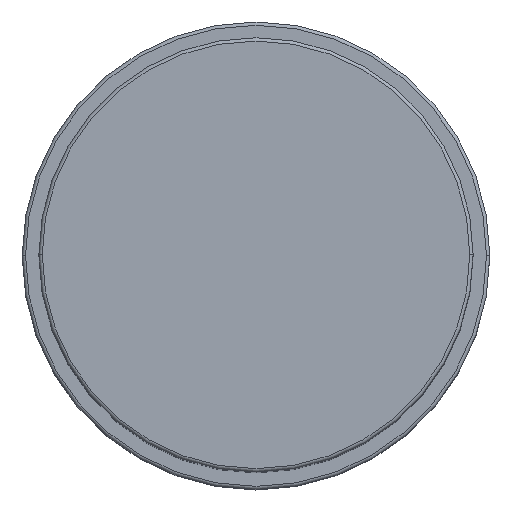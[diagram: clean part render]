
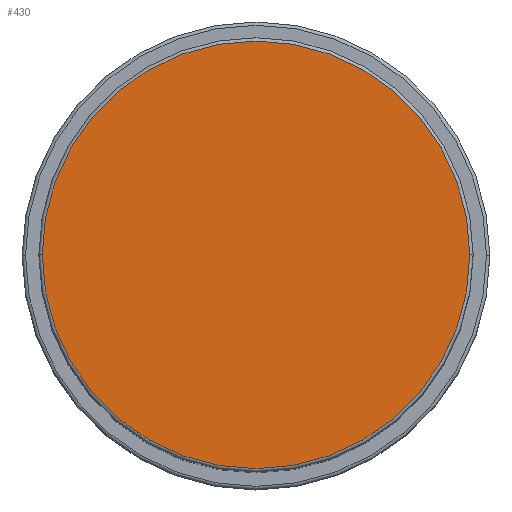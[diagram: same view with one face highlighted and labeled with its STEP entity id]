
A CAD part, top view. The second image highlights one B-rep face of the part: STEP entity #430.
In plain terms, the highlighted planar face has unit normal (0, 0, 1).
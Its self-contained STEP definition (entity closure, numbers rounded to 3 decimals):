
#12 = DIRECTION ( 'NONE',  ( 1., 0., 0. ) ) ;
#43 = EDGE_LOOP ( 'NONE', ( #958, #971 ) ) ;
#354 = VERTEX_POINT ( 'NONE', #979 ) ;
#405 = AXIS2_PLACEMENT_3D ( 'NONE', #1248, #876, #1415 ) ;
#414 = CARTESIAN_POINT ( 'NONE',  ( 0., 0., 112. ) ) ;
#430 = ADVANCED_FACE ( 'NONE', ( #1300 ), #1274, .T. ) ;
#531 = AXIS2_PLACEMENT_3D ( 'NONE', #414, #1298, #535 ) ;
#535 = DIRECTION ( 'NONE',  ( 1., 0., 0. ) ) ;
#559 = EDGE_CURVE ( 'NONE', #1100, #354, #1459, .T. ) ;
#644 = CARTESIAN_POINT ( 'NONE',  ( 0., 0., 112. ) ) ;
#797 = AXIS2_PLACEMENT_3D ( 'NONE', #644, #901, #12 ) ;
#876 = DIRECTION ( 'NONE',  ( 0., 0., 1. ) ) ;
#901 = DIRECTION ( 'NONE',  ( 0., 0., 1. ) ) ;
#942 = CIRCLE ( 'NONE', #405, 32. ) ;
#958 = ORIENTED_EDGE ( 'NONE', *, *, #1449, .T. ) ;
#971 = ORIENTED_EDGE ( 'NONE', *, *, #559, .T. ) ;
#979 = CARTESIAN_POINT ( 'NONE',  ( 32., 0., 112. ) ) ;
#1100 = VERTEX_POINT ( 'NONE', #1143 ) ;
#1143 = CARTESIAN_POINT ( 'NONE',  ( -32., 0., 112. ) ) ;
#1248 = CARTESIAN_POINT ( 'NONE',  ( 0., 0., 112. ) ) ;
#1274 = PLANE ( 'NONE',  #797 ) ;
#1298 = DIRECTION ( 'NONE',  ( 0., 0., 1. ) ) ;
#1300 = FACE_OUTER_BOUND ( 'NONE', #43, .T. ) ;
#1415 = DIRECTION ( 'NONE',  ( 1., 0., 0. ) ) ;
#1449 = EDGE_CURVE ( 'NONE', #354, #1100, #942, .T. ) ;
#1459 = CIRCLE ( 'NONE', #531, 32. ) ;
